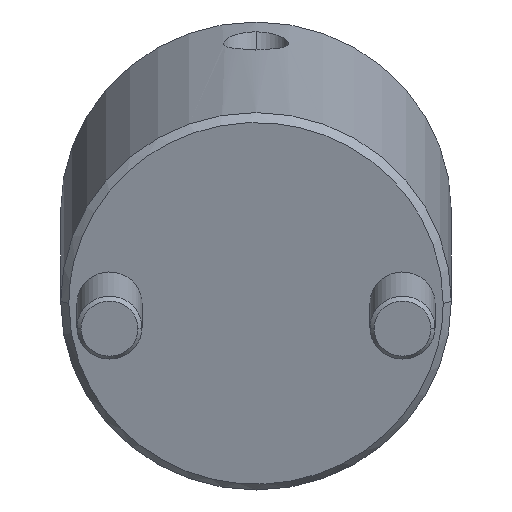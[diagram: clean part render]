
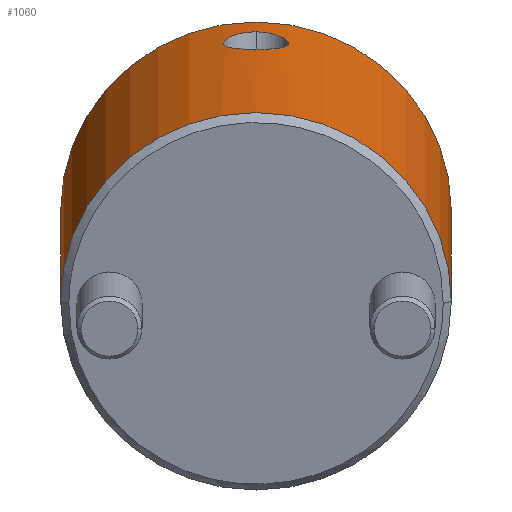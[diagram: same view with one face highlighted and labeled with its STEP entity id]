
A CAD part, front view. The second image highlights one B-rep face of the part: STEP entity #1060.
In plain terms, the highlighted cylindrical face has radius 24 mm (diameter 48 mm), a partial arc.
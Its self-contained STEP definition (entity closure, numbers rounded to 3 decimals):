
#802=CARTESIAN_POINT('Vertex',(0.,24.,1.)) ;
#805=CARTESIAN_POINT('Axis2P3D Location',(0.,0.,1.)) ;
#809=CARTESIAN_POINT('Vertex',(0.,-24.,1.)) ;
#961=CARTESIAN_POINT('Axis2P3D Location',(0.,0.,-2.25)) ;
#966=CARTESIAN_POINT('Line Origine',(0.,24.,-2.25)) ;
#970=CARTESIAN_POINT('Vertex',(0.,24.,44.)) ;
#973=CARTESIAN_POINT('Axis2P3D Location',(0.,0.,44.)) ;
#977=CARTESIAN_POINT('Vertex',(0.,-24.,44.)) ;
#980=CARTESIAN_POINT('Line Origine',(0.,-24.,-2.25)) ;
#992=CARTESIAN_POINT('Control Point',(24.,0.,39.312)) ;
#993=CARTESIAN_POINT('Control Point',(24.,0.381,39.312)) ;
#994=CARTESIAN_POINT('Control Point',(23.992,0.757,39.263)) ;
#995=CARTESIAN_POINT('Control Point',(23.978,1.125,39.167)) ;
#996=CARTESIAN_POINT('Control Point',(23.946,1.656,38.956)) ;
#997=CARTESIAN_POINT('Control Point',(23.905,2.142,38.651)) ;
#998=CARTESIAN_POINT('Control Point',(23.89,2.302,38.536)) ;
#999=CARTESIAN_POINT('Control Point',(23.859,2.608,38.288)) ;
#1000=CARTESIAN_POINT('Control Point',(23.826,2.886,38.002)) ;
#1001=CARTESIAN_POINT('Control Point',(23.81,3.019,37.847)) ;
#1002=CARTESIAN_POINT('Control Point',(23.778,3.265,37.525)) ;
#1003=CARTESIAN_POINT('Control Point',(23.748,3.472,37.174)) ;
#1004=CARTESIAN_POINT('Control Point',(23.734,3.565,36.993)) ;
#1005=CARTESIAN_POINT('Control Point',(23.709,3.731,36.621)) ;
#1006=CARTESIAN_POINT('Control Point',(23.689,3.851,36.232)) ;
#1007=CARTESIAN_POINT('Control Point',(23.681,3.901,36.035)) ;
#1008=CARTESIAN_POINT('Control Point',(23.668,3.976,35.638)) ;
#1009=CARTESIAN_POINT('Control Point',(23.664,4.004,35.232)) ;
#1010=CARTESIAN_POINT('Control Point',(23.663,4.007,35.033)) ;
#1011=CARTESIAN_POINT('Control Point',(23.669,3.974,34.33)) ;
#1012=CARTESIAN_POINT('Control Point',(23.698,3.799,33.653)) ;
#1013=CARTESIAN_POINT('Control Point',(23.73,3.604,33.199)) ;
#1014=CARTESIAN_POINT('Control Point',(23.799,3.136,32.447)) ;
#1015=CARTESIAN_POINT('Control Point',(23.874,2.484,31.853)) ;
#1016=CARTESIAN_POINT('Control Point',(23.906,2.162,31.627)) ;
#1017=CARTESIAN_POINT('Control Point',(23.955,1.553,31.301)) ;
#1018=CARTESIAN_POINT('Control Point',(23.986,0.889,31.112)) ;
#1019=CARTESIAN_POINT('Control Point',(23.995,0.595,31.057)) ;
#1020=CARTESIAN_POINT('Control Point',(24.,0.299,31.03)) ;
#1021=CARTESIAN_POINT('Control Point',(24.,0.,31.03)) ;
#1022=CARTESIAN_POINT('Vertex',(24.,0.,39.312)) ;
#1024=CARTESIAN_POINT('Vertex',(24.,0.,31.03)) ;
#1028=CARTESIAN_POINT('Control Point',(24.,0.,31.03)) ;
#1029=CARTESIAN_POINT('Control Point',(24.,-0.49,31.03)) ;
#1030=CARTESIAN_POINT('Control Point',(23.988,-0.973,31.103)) ;
#1031=CARTESIAN_POINT('Control Point',(23.963,-1.449,31.251)) ;
#1032=CARTESIAN_POINT('Control Point',(23.902,-2.245,31.642)) ;
#1033=CARTESIAN_POINT('Control Point',(23.826,-2.902,32.232)) ;
#1034=CARTESIAN_POINT('Control Point',(23.793,-3.16,32.529)) ;
#1035=CARTESIAN_POINT('Control Point',(23.731,-3.596,33.178)) ;
#1036=CARTESIAN_POINT('Control Point',(23.687,-3.866,33.919)) ;
#1037=CARTESIAN_POINT('Control Point',(23.671,-3.958,34.308)) ;
#1038=CARTESIAN_POINT('Control Point',(23.656,-4.048,35.113)) ;
#1039=CARTESIAN_POINT('Control Point',(23.673,-3.946,35.921)) ;
#1040=CARTESIAN_POINT('Control Point',(23.69,-3.849,36.316)) ;
#1041=CARTESIAN_POINT('Control Point',(23.724,-3.637,36.89)) ;
#1042=CARTESIAN_POINT('Control Point',(23.768,-3.329,37.417)) ;
#1043=CARTESIAN_POINT('Control Point',(23.784,-3.217,37.586)) ;
#1044=CARTESIAN_POINT('Control Point',(23.816,-2.973,37.91)) ;
#1045=CARTESIAN_POINT('Control Point',(23.849,-2.696,38.2)) ;
#1046=CARTESIAN_POINT('Control Point',(23.865,-2.55,38.334)) ;
#1047=CARTESIAN_POINT('Control Point',(23.896,-2.246,38.584)) ;
#1048=CARTESIAN_POINT('Control Point',(23.924,-1.917,38.793)) ;
#1049=CARTESIAN_POINT('Control Point',(23.937,-1.747,38.887)) ;
#1050=CARTESIAN_POINT('Control Point',(23.967,-1.315,39.092)) ;
#1051=CARTESIAN_POINT('Control Point',(23.987,-0.856,39.228)) ;
#1052=CARTESIAN_POINT('Control Point',(23.996,-0.575,39.284)) ;
#1053=CARTESIAN_POINT('Control Point',(24.,-0.289,39.312)) ;
#1054=CARTESIAN_POINT('Control Point',(24.,0.,39.312)) ;
#806=DIRECTION('Axis2P3D Direction',(0.,0.,1.)) ;
#962=DIRECTION('Axis2P3D Direction',(0.,-0.,1.)) ;
#963=DIRECTION('Axis2P3D XDirection',(0.,-1.,0.)) ;
#967=DIRECTION('Vector Direction',(0.,0.,1.)) ;
#974=DIRECTION('Axis2P3D Direction',(0.,-0.,1.)) ;
#981=DIRECTION('Vector Direction',(0.,0.,1.)) ;
#807=AXIS2_PLACEMENT_3D('Circle Axis2P3D',#805,#806,$) ;
#964=AXIS2_PLACEMENT_3D('Cylinder Axis2P3D',#961,#962,#963) ;
#975=AXIS2_PLACEMENT_3D('Circle Axis2P3D',#973,#974,$) ;
#986=ORIENTED_EDGE('',*,*,#972,.F.) ;
#987=ORIENTED_EDGE('',*,*,#979,.T.) ;
#988=ORIENTED_EDGE('',*,*,#984,.T.) ;
#989=ORIENTED_EDGE('',*,*,#811,.F.) ;
#1057=ORIENTED_EDGE('',*,*,#1026,.T.) ;
#1058=ORIENTED_EDGE('',*,*,#1055,.T.) ;
#1059=FACE_BOUND('',#1056,.T.) ;
#968=VECTOR('Line Direction',#967,1.) ;
#982=VECTOR('Line Direction',#981,1.) ;
#1060=ADVANCED_FACE('MANIFOLD_SOLID_BREP #1134',(#990,#1059),#965,.T.) ;
#991=B_SPLINE_CURVE_WITH_KNOTS('',5,(#992,#993,#994,#995,#996,#997,#998,#999,#1000,#1001,#1002,#1003,#1004,#1005,#1006,#1007,#1008,#1009,#1010,#1011,#1012,#1013,#1014,#1015,#1016,#1017,#1018,#1019,#1020,#1021),.UNSPECIFIED.,.F.,.U.,(6,3,3,3,3,3,3,3,3,6),(0.,2.718,4.117,5.519,6.933,8.345,9.737,13.219,16.005,18.128),.UNSPECIFIED.) ;
#1027=B_SPLINE_CURVE_WITH_KNOTS('',5,(#1028,#1029,#1030,#1031,#1032,#1033,#1034,#1035,#1036,#1037,#1038,#1039,#1040,#1041,#1042,#1043,#1044,#1045,#1046,#1047,#1048,#1049,#1050,#1051,#1052,#1053,#1054),.UNSPECIFIED.,.F.,.U.,(6,3,3,3,3,3,3,3,6),(0.,3.484,6.273,9.048,11.861,13.272,14.676,16.068,18.126),.UNSPECIFIED.) ;
#808=CIRCLE('generated circle',#807,24.) ;
#976=CIRCLE('generated circle',#975,24.) ;
#965=CYLINDRICAL_SURFACE('generated cylinder',#964,24.) ;
#811=EDGE_CURVE('',#803,#810,#808,.F.) ;
#972=EDGE_CURVE('',#971,#803,#969,.F.) ;
#979=EDGE_CURVE('',#971,#978,#976,.F.) ;
#984=EDGE_CURVE('',#978,#810,#983,.F.) ;
#1026=EDGE_CURVE('',#1023,#1025,#991,.T.) ;
#1055=EDGE_CURVE('',#1025,#1023,#1027,.T.) ;
#985=EDGE_LOOP('',(#986,#987,#988,#989)) ;
#1056=EDGE_LOOP('',(#1057,#1058)) ;
#990=FACE_OUTER_BOUND('',#985,.T.) ;
#969=LINE('Line',#966,#968) ;
#983=LINE('Line',#980,#982) ;
#803=VERTEX_POINT('',#802) ;
#810=VERTEX_POINT('',#809) ;
#971=VERTEX_POINT('',#970) ;
#978=VERTEX_POINT('',#977) ;
#1023=VERTEX_POINT('',#1022) ;
#1025=VERTEX_POINT('',#1024) ;
